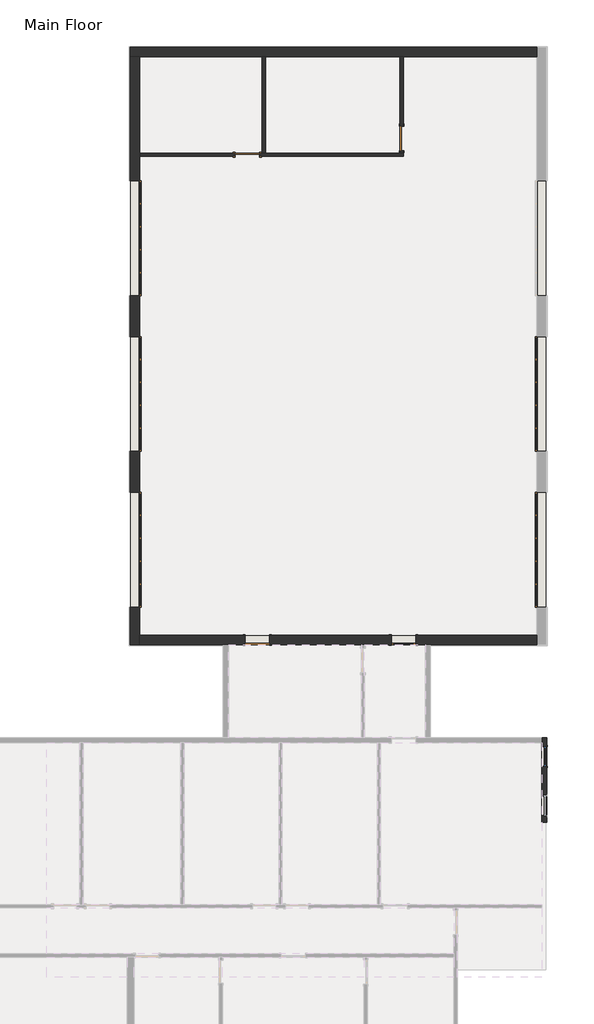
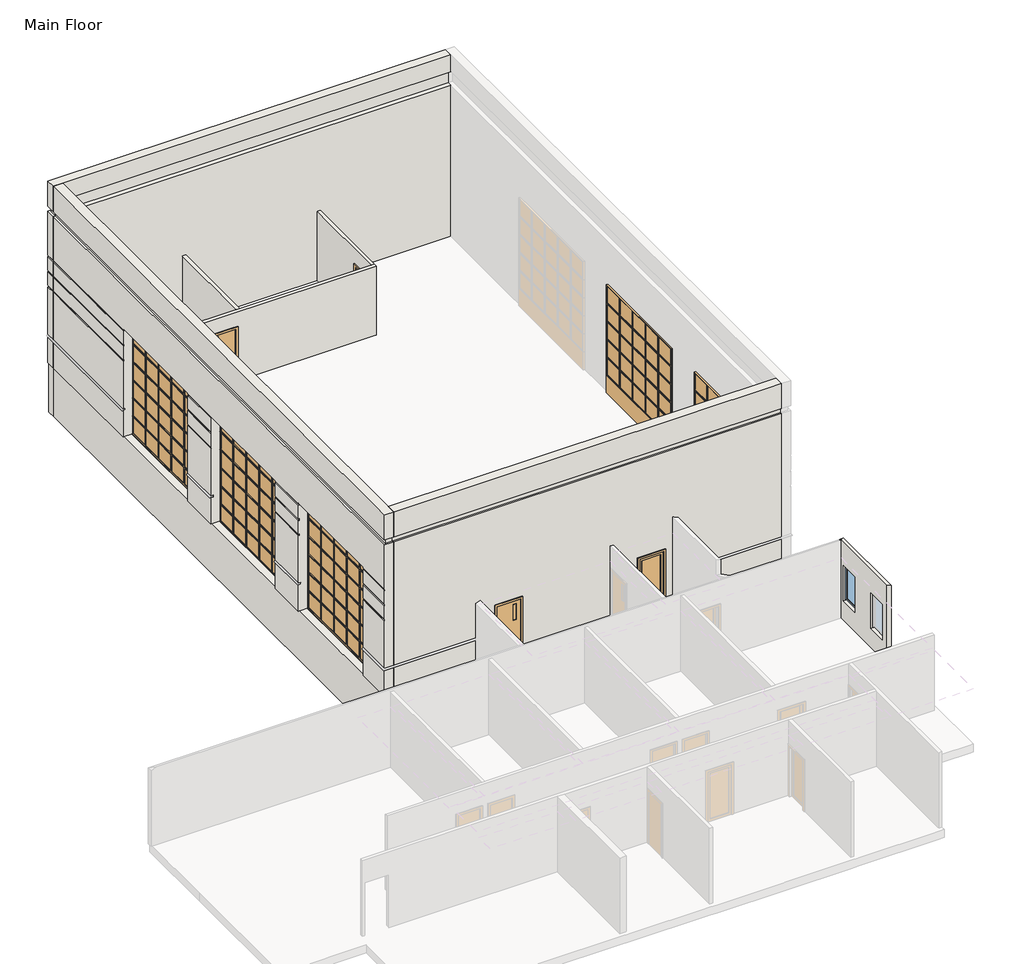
# One storey, part 2 of 3: 11 walls, 9 doors, 1 window.
"""IFC4 building model written with IfcOpenShell, lengths in millimetres."""

from ifc_helpers import new_model, si_unit, frame, origin, place, context, project, spatial, polyline, outline, extrude, faceted_brep, transform, mapped, element, save
from components import overhead_sectional_glass_14_x_14_271c9dc0, overhead_sectional_glass_14_x_14_50861e5d, door_d6ecde1c, door_2a3d4b99, door_1467a2ec, door_2118299b, window_3b8f106a

model = new_model("IFC4")

# Units and contexts
model_context = context("Model", 3, world=origin())
ifc_project = project(units=[si_unit("LENGTHUNIT", "METRE", prefix="MILLI")], contexts=[model_context])

# Site, building, storey
site = spatial("IfcSite", under=ifc_project)
building = spatial("IfcBuilding", under=site)
storey = spatial("IfcBuildingStorey", under=building, Name="Main Floor", Elevation=42672.0)

# Doors
placement = place(None, origin())
overhead_sectional_glass_14_x_14_shape = overhead_sectional_glass_14_x_14_271c9dc0(model_context)
element("IfcDoor", 1, ObjectType="Overhead-Sectional Glass : 14' x 14'", at=placement, inside=storey, context=model_context, shape_type="MappedRepresentation", body=[
    mapped(overhead_sectional_glass_14_x_14_shape, transform((465.1082664, 3387.6480156, 42672.0), x_axis=(0.0, -1.0, 0.0), y_axis=(1.0, 0.0, 0.0), z_axis=(0.0, 0.0, 1.0))),
])
overhead_sectional_glass_14_x_14_2_shape = overhead_sectional_glass_14_x_14_50861e5d(model_context)
element("IfcDoor", 2, ObjectType="Overhead-Sectional Glass : 14' x 14'", at=placement, inside=storey, context=model_context, shape_type="MappedRepresentation", body=[
    mapped(overhead_sectional_glass_14_x_14_2_shape, transform((465.1082664, 9178.8480156, 42672.0), x_axis=(0.0, 1.0, 0.0), y_axis=(-1.0, 0.0, 0.0), z_axis=(0.0, 0.0, 1.0))),
])
element("IfcDoor", 3, ObjectType="Overhead-Sectional Glass : 14' x 14'", at=placement, inside=storey, context=model_context, shape_type="MappedRepresentation", body=[
    mapped(overhead_sectional_glass_14_x_14_2_shape, transform((-14673.2917336, 14970.0480156, 42672.0), x_axis=(0.0, -1.0, 0.0), y_axis=(1.0, 0.0, 0.0), z_axis=(0.0, 0.0, 1.0))),
])
element("IfcDoor", 4, ObjectType="Overhead-Sectional Glass : 14' x 14'", at=placement, inside=storey, context=model_context, shape_type="MappedRepresentation", body=[
    mapped(overhead_sectional_glass_14_x_14_2_shape, transform((-14673.2917336, 9178.8480156, 42646.6), x_axis=(0.0, -1.0, 0.0), y_axis=(1.0, 0.0, 0.0), z_axis=(0.0, 0.0, 1.0))),
])
element("IfcDoor", 5, ObjectType="Overhead-Sectional Glass : 14' x 14'", at=placement, inside=storey, context=model_context, shape_type="MappedRepresentation", body=[
    mapped(overhead_sectional_glass_14_x_14_2_shape, transform((-14673.2917336, 3387.6480156, 42672.0), x_axis=(0.0, -1.0, 0.0), y_axis=(1.0, 0.0, 0.0), z_axis=(0.0, 0.0, 1.0))),
])
door_shape = door_d6ecde1c(model_context)
element("IfcDoor", 6, ObjectType="Single-Flush Vision : 36\" x 84\"", at=placement, inside=storey, context=model_context, shape_type="MappedRepresentation", body=[
    mapped(door_shape, transform((-10120.3417336, 34.8480156, 42672.0), x_axis=(-1.0, 0.0, 0.0), y_axis=(0.0, -1.0, 0.0), z_axis=(0.0, 0.0, 1.0))),
])
door_2_shape = door_2a3d4b99(model_context)
element("IfcDoor", 7, ObjectType="Single-Flush Vision : 36\" x 84\"", at=placement, inside=storey, context=model_context, shape_type="MappedRepresentation", body=[
    mapped(door_2_shape, transform((-10482.2917336, 18068.8480156, 42672.0), x_axis=(1.0, 0.0, 0.0), y_axis=(0.0, 1.0, 0.0), z_axis=(0.0, 0.0, 1.0))),
])
door_3_shape = door_1467a2ec(model_context)
element("IfcDoor", 8, ObjectType="Single-Flush Vision : 36\" x 84\"", at=placement, inside=storey, context=model_context, shape_type="MappedRepresentation", body=[
    mapped(door_3_shape, transform((-4741.8917336, 18678.4480156, 42672.0), x_axis=(0.0, -1.0, 0.0), y_axis=(1.0, 0.0, 0.0), z_axis=(0.0, 0.0, 1.0))),
])
door_4_shape = door_2118299b(model_context)
element("IfcDoor", 9, ObjectType="Single-Glass 1 : 36\" x 84\"", at=placement, inside=storey, context=model_context, shape_type="MappedRepresentation", body=[
    mapped(door_4_shape, transform((-4676.8042336, 34.8480156, 42672.0), x_axis=(1.0, 0.0, 0.0), y_axis=(0.0, 1.0, 0.0), z_axis=(0.0, 0.0, 1.0))),
])

# Walls
element("IfcWall", 10, ObjectType="Exterior - Brick & CMU - No Reveals", at=placement, inside=storey, context=model_context, shape_type="Brep", body=[
    faceted_brep([(-14497.0792336, 211.0605156, 49987.2), (288.8957664, 211.0605156, 49987.2), (288.8957664, 211.0605156, 49314.1), (-14497.0792336, 211.0605156, 49314.1), (288.8957664, 211.0605156, 42672.0), (-4219.6042336, 211.0605156, 42672.0), (-4219.6042336, 211.0605156, 44805.6), (-5134.0042336, 211.0605156, 44805.6), (-5134.0042336, 211.0605156, 42672.0), (-9663.1417336, 211.0605156, 42672.0), (-9663.1417336, 211.0605156, 44805.6), (-10577.5417336, 211.0605156, 44805.6), (-10577.5417336, 211.0605156, 42672.0), (-14497.0792336, 211.0605156, 42672.0), (-14497.0792336, 211.0605156, 48768.0), (288.8957664, 211.0605156, 48768.0), (288.8957664, -141.3644844, 49987.2), (-14497.0792336, -141.3644844, 49987.2), (-14497.0792336, -141.3644844, 48971.2), (288.8957664, -141.3644844, 48971.2), (-4219.6042336, -141.3644844, 42672.0), (-3856.0667336, -141.3644844, 42672.0), (-3668.7417336, -141.3644844, 42672.0), (288.8957664, -141.3644844, 42672.0), (288.8957664, -141.3644844, 43738.8), (-3668.7417336, -141.3644844, 43738.8), (-3668.7417336, -141.3644844, 43808.65), (288.8957664, -141.3644844, 43808.65), (288.8957664, -141.3644844, 48768.0), (-14497.0792336, -141.3644844, 48768.0), (-14497.0792336, -141.3644844, 43808.65), (-11379.2292336, -141.3644844, 43808.65), (-11379.2292336, -141.3644844, 43738.8), (-14497.0792336, -141.3644844, 43738.8), (-14497.0792336, -141.3644844, 42672.0), (-11379.2292336, -141.3644844, 42672.0), (-11191.9042336, -141.3644844, 42672.0), (-10577.5417336, -141.3644844, 42672.0), (-10577.5417336, -141.3644844, 44805.6), (-9663.1417336, -141.3644844, 44805.6), (-9663.1417336, -141.3644844, 42672.0), (-6243.6667336, -141.3644844, 42672.0), (-6119.8417336, -141.3644844, 42672.0), (-5134.0042336, -141.3644844, 42672.0), (-5134.0042336, -141.3644844, 44805.6), (-4219.6042336, -141.3644844, 44805.6), (-14497.0792336, -49.2894844, 42672.0), (-10577.5417336, -49.2894844, 42672.0), (288.8957664, -49.2894844, 42672.0), (-4219.6042336, -49.2894844, 42672.0), (-5134.0042336, -49.2894844, 42672.0), (-9663.1417336, -49.2894844, 42672.0), (-14497.0792336, 45.9605156, 49314.1), (-14497.0792336, 45.9605156, 48768.0), (-14497.0792336, -49.2894844, 43738.8), (-14497.0792336, -49.2894844, 43808.65), (-14497.0792336, -65.1644844, 48768.0), (-14497.0792336, -65.1644844, 48971.2), (288.8957664, -65.1644844, 48971.2), (288.8957664, -65.1644844, 48768.0), (288.8957664, -49.2894844, 43808.65), (288.8957664, -49.2894844, 43738.8), (288.8957664, 45.9605156, 48768.0), (288.8957664, 45.9605156, 49314.1), (-3668.7417336, -49.2894844, 43808.65), (-3668.7417336, -49.2894844, 43738.8), (-11379.2292336, -49.2894844, 43808.65), (-11379.2292336, -49.2894844, 43738.8)], [[[0, 1, 2, 3]], [[4, 5, 6, 7, 8, 9, 10, 11, 12, 13, 14, 15]], [[16, 17, 18, 19]], [[20, 21, 22, 23, 24, 25, 26, 27, 28, 29, 30, 31, 32, 33, 34, 35, 36, 37, 38, 39, 40, 41, 42, 43, 44, 45]], [[1, 0, 17, 16]], [[46, 13, 12, 47]], [[4, 48, 49, 5]], [[8, 50, 51, 9]], [[17, 0, 3, 52, 53, 14, 13, 46, 34, 33, 54, 55, 30, 29, 56, 57, 18]], [[1, 16, 19, 58, 59, 28, 27, 60, 61, 24, 23, 48, 4, 15, 62, 63, 2]], [[34, 46, 47, 37, 36, 35]], [[48, 23, 22, 21, 20, 49]], [[50, 43, 42, 41, 40, 51]], [[6, 5, 49, 20, 45]], [[7, 6, 45, 44]], [[8, 7, 44, 43, 50]], [[11, 38, 37, 47, 12]], [[38, 11, 10, 39]], [[39, 10, 9, 51, 40]], [[59, 56, 29, 28]], [[57, 58, 19, 18]], [[58, 57, 56, 59]], [[26, 64, 60, 27]], [[65, 25, 24, 61]], [[64, 26, 25, 65]], [[64, 65, 61, 60]], [[31, 66, 67, 32]], [[66, 31, 30, 55]], [[67, 54, 33, 32]], [[67, 66, 55, 54]], [[63, 52, 3, 2]], [[53, 62, 15, 14]], [[52, 63, 62, 53]]]),
])
element("IfcWall", 11, ObjectType="Exterior - Brick and CMU", at=placement, inside=storey, context=model_context, shape_type="Brep", body=[
    faceted_brep([(-14849.5042336, 21702.6355156, 42672.0), (-14497.0792336, 21702.6355156, 42672.0), (-9934.6042336, 21702.6355156, 42672.0), (-9810.7792336, 21702.6355156, 42672.0), (-4803.8042336, 21702.6355156, 42672.0), (-4679.9792336, 21702.6355156, 42672.0), (288.8957664, 21702.6355156, 42672.0), (288.8957664, 21702.6355156, 48768.0), (-14497.0792336, 21702.6355156, 48768.0), (-14662.1792336, 21702.6355156, 48768.0), (-14662.1792336, 21702.6355156, 49314.1), (-14497.0792336, 21702.6355156, 49314.1), (288.8957664, 21702.6355156, 49314.1), (288.8957664, 21702.6355156, 49987.2), (-14497.0792336, 21702.6355156, 49987.2), (-14849.5042336, 21702.6355156, 49987.2), (-14849.5042336, 21702.6355156, 48971.2), (-14773.3042336, 21702.6355156, 48971.2), (-14773.3042336, 21702.6355156, 48768.0), (-14849.5042336, 21702.6355156, 48768.0), (-14849.5042336, 21702.6355156, 47006.9333333), (-14824.1042336, 21702.6355156, 47006.9333333), (-14824.1042336, 21702.6355156, 46939.2), (-14849.5042336, 21702.6355156, 46939.2), (-14849.5042336, 21702.6355156, 46397.3333333), (-14824.1042336, 21702.6355156, 46397.3333333), (-14824.1042336, 21702.6355156, 46329.6), (-14849.5042336, 21702.6355156, 46329.6), (-14849.5042336, 21702.6355156, 45787.7333333), (-14824.1042336, 21702.6355156, 45787.7333333), (-14824.1042336, 21702.6355156, 45720.0), (-14849.5042336, 21702.6355156, 45720.0), (-14849.5042336, 21702.6355156, 43808.65), (-14757.4292336, 21702.6355156, 43808.65), (-14757.4292336, 21702.6355156, 43738.8), (-14849.5042336, 21702.6355156, 43738.8), (-14849.5042336, 22055.0605156, 49987.2), (288.8957664, 22055.0605156, 49987.2), (288.8957664, 22055.0605156, 48971.2), (-14849.5042336, 22055.0605156, 48971.2), (288.8957664, 22055.0605156, 42672.0), (-14849.5042336, 22055.0605156, 42672.0), (-14849.5042336, 22055.0605156, 43738.8), (288.8957664, 22055.0605156, 43738.8), (288.8957664, 22055.0605156, 45787.7333333), (-14849.5042336, 22055.0605156, 45787.7333333), (-14849.5042336, 22055.0605156, 46329.6), (288.8957664, 22055.0605156, 46329.6), (-14849.5042336, 22055.0605156, 45720.0), (288.8957664, 22055.0605156, 45720.0), (288.8957664, 22055.0605156, 43808.65), (-14849.5042336, 22055.0605156, 43808.65), (288.8957664, 22055.0605156, 46397.3333333), (-14849.5042336, 22055.0605156, 46397.3333333), (-14849.5042336, 22055.0605156, 46939.2), (288.8957664, 22055.0605156, 46939.2), (288.8957664, 22055.0605156, 47006.9333333), (-14849.5042336, 22055.0605156, 47006.9333333), (-14849.5042336, 22055.0605156, 48768.0), (288.8957664, 22055.0605156, 48768.0), (-14849.5042336, 21962.9855156, 42672.0), (288.8957664, 21962.9855156, 42672.0), (288.8957664, 21867.7355156, 49314.1), (288.8957664, 21867.7355156, 48768.0), (288.8957664, 21962.9855156, 43738.8), (288.8957664, 21962.9855156, 43808.65), (288.8957664, 22029.6605156, 45720.0), (288.8957664, 22029.6605156, 45787.7333333), (288.8957664, 22029.6605156, 46329.6), (288.8957664, 22029.6605156, 46397.3333333), (288.8957664, 22029.6605156, 46939.2), (288.8957664, 22029.6605156, 47006.9333333), (288.8957664, 21978.8605156, 48768.0), (288.8957664, 21978.8605156, 48971.2), (-14824.1042336, 22029.6605156, 45787.7333333), (-14824.1042336, 22029.6605156, 45720.0), (-14824.1042336, 22029.6605156, 46397.3333333), (-14824.1042336, 22029.6605156, 46329.6), (-14824.1042336, 22029.6605156, 47006.9333333), (-14824.1042336, 22029.6605156, 46939.2), (-14757.4292336, 21962.9855156, 43808.65), (-14757.4292336, 21962.9855156, 43738.8), (-14773.3042336, 21978.8605156, 48768.0), (-14773.3042336, 21978.8605156, 48971.2), (-14662.1792336, 21867.7355156, 49314.1), (-14662.1792336, 21867.7355156, 48768.0)], [[[0, 1, 2, 3, 4, 5, 6, 7, 8, 9, 10, 11, 12, 13, 14, 15, 16, 17, 18, 19, 20, 21, 22, 23, 24, 25, 26, 27, 28, 29, 30, 31, 32, 33, 34, 35]], [[36, 37, 38, 39]], [[40, 41, 42, 43]], [[44, 45, 46, 47]], [[48, 49, 50, 51]], [[52, 53, 54, 55]], [[56, 57, 58, 59]], [[15, 14, 13, 37, 36]], [[6, 5, 4, 3, 2, 1, 0, 60, 61]], [[37, 13, 12, 62, 63, 7, 6, 61, 40, 43, 64, 65, 50, 49, 66, 67, 44, 47, 68, 69, 52, 55, 70, 71, 56, 59, 72, 73, 38]], [[15, 36, 39, 16]], [[60, 0, 35, 42, 41]], [[45, 28, 27, 46]], [[31, 48, 51, 32]], [[53, 24, 23, 54]], [[57, 20, 19, 58]], [[41, 40, 61, 60]], [[67, 74, 29, 28, 45, 44]], [[30, 75, 66, 49, 48, 31]], [[74, 75, 30, 29]], [[75, 74, 67, 66]], [[69, 76, 25, 24, 53, 52]], [[26, 77, 68, 47, 46, 27]], [[76, 77, 26, 25]], [[77, 76, 69, 68]], [[71, 78, 21, 20, 57, 56]], [[22, 79, 70, 55, 54, 23]], [[78, 79, 22, 21]], [[79, 78, 71, 70]], [[65, 80, 33, 32, 51, 50]], [[34, 81, 64, 43, 42, 35]], [[80, 81, 34, 33]], [[81, 80, 65, 64]], [[18, 82, 72, 59, 58, 19]], [[83, 82, 18, 17]], [[73, 83, 17, 16, 39, 38]], [[82, 83, 73, 72]], [[84, 62, 12, 11, 10]], [[85, 9, 8, 7, 63]], [[85, 84, 10, 9]], [[84, 85, 63, 62]]]),
])
element("IfcWall", 12, ObjectType="Exterior - Brick and CMU", at=placement, inside=storey, context=model_context, shape_type="Brep", body=[
    faceted_brep([(-14497.0792336, 21702.6355156, 49987.2), (-14497.0792336, 211.0605156, 49987.2), (-14497.0792336, -141.3644844, 49987.2), (-14497.0792336, -141.3644844, 48971.2), (-14497.0792336, -65.1644844, 48971.2), (-14497.0792336, -65.1644844, 48768.0), (-14497.0792336, -141.3644844, 48768.0), (-14497.0792336, -141.3644844, 43808.65), (-14497.0792336, -49.2894844, 43808.65), (-14497.0792336, -49.2894844, 43738.8), (-14497.0792336, -141.3644844, 43738.8), (-14497.0792336, -141.3644844, 42672.0), (-14497.0792336, 211.0605156, 42672.0), (-14497.0792336, 1254.0480156, 42672.0), (-14497.0792336, 1254.0480156, 47040.8), (-14497.0792336, 5521.2480156, 47040.8), (-14497.0792336, 5521.2480156, 42672.0), (-14497.0792336, 7045.2480156, 42672.0), (-14497.0792336, 7045.2480156, 47015.4), (-14497.0792336, 11312.4480156, 47015.4), (-14497.0792336, 11312.4480156, 42672.0), (-14497.0792336, 12836.4480156, 42672.0), (-14497.0792336, 12836.4480156, 47040.8), (-14497.0792336, 17103.6480156, 47040.8), (-14497.0792336, 17103.6480156, 42672.0), (-14497.0792336, 18006.9355156, 42672.0), (-14497.0792336, 18130.7605156, 42672.0), (-14497.0792336, 21702.6355156, 42672.0), (-14497.0792336, 21702.6355156, 48768.0), (-14497.0792336, 211.0605156, 48768.0), (-14497.0792336, 45.9605156, 48768.0), (-14497.0792336, 45.9605156, 49314.1), (-14497.0792336, 211.0605156, 49314.1), (-14497.0792336, 21702.6355156, 49314.1), (-14849.5042336, -141.3644844, 49987.2), (-14849.5042336, 21702.6355156, 49987.2), (-14849.5042336, 21702.6355156, 48971.2), (-14849.5042336, -141.3644844, 48971.2), (-14849.5042336, 21702.6355156, 42672.0), (-14849.5042336, 17103.6480156, 42672.0), (-14849.5042336, 17103.6480156, 43738.8), (-14849.5042336, 21702.6355156, 43738.8), (-14849.5042336, 17103.6480156, 47040.8), (-14849.5042336, 12836.4480156, 47040.8), (-14849.5042336, 12836.4480156, 47006.9333333), (-14849.5042336, 11312.4480156, 47006.9333333), (-14849.5042336, 11312.4480156, 47015.4), (-14849.5042336, 7045.2480156, 47015.4), (-14849.5042336, 7045.2480156, 47006.9333333), (-14849.5042336, 5521.2480156, 47006.9333333), (-14849.5042336, 5521.2480156, 47040.8), (-14849.5042336, 1254.0480156, 47040.8), (-14849.5042336, 1254.0480156, 47006.9333333), (-14849.5042336, -141.3644844, 47006.9333333), (-14849.5042336, -141.3644844, 48768.0), (-14849.5042336, 21702.6355156, 48768.0), (-14849.5042336, 21702.6355156, 47006.9333333), (-14849.5042336, 17103.6480156, 47006.9333333), (-14849.5042336, 12836.4480156, 42672.0), (-14849.5042336, 11312.4480156, 42672.0), (-14849.5042336, 11312.4480156, 43738.8), (-14849.5042336, 12836.4480156, 43738.8), (-14849.5042336, 1254.0480156, 42672.0), (-14849.5042336, -141.3644844, 42672.0), (-14849.5042336, -141.3644844, 43738.8), (-14849.5042336, 1254.0480156, 43738.8), (-14849.5042336, 7045.2480156, 42672.0), (-14849.5042336, 5521.2480156, 42672.0), (-14849.5042336, 5521.2480156, 43738.8), (-14849.5042336, 7045.2480156, 43738.8), (-14849.5042336, 21702.6355156, 45787.7333333), (-14849.5042336, 17103.6480156, 45787.7333333), (-14849.5042336, 17103.6480156, 46329.6), (-14849.5042336, 21702.6355156, 46329.6), (-14849.5042336, 17103.6480156, 45720.0), (-14849.5042336, 21702.6355156, 45720.0), (-14849.5042336, 21702.6355156, 43808.65), (-14849.5042336, 17103.6480156, 43808.65), (-14849.5042336, 12836.4480156, 45787.7333333), (-14849.5042336, 11312.4480156, 45787.7333333), (-14849.5042336, 11312.4480156, 46329.6), (-14849.5042336, 12836.4480156, 46329.6), (-14849.5042336, 11312.4480156, 45720.0), (-14849.5042336, 12836.4480156, 45720.0), (-14849.5042336, 12836.4480156, 43808.65), (-14849.5042336, 11312.4480156, 43808.65), (-14849.5042336, 7045.2480156, 45787.7333333), (-14849.5042336, 5521.2480156, 45787.7333333), (-14849.5042336, 5521.2480156, 46329.6), (-14849.5042336, 7045.2480156, 46329.6), (-14849.5042336, 5521.2480156, 45720.0), (-14849.5042336, 7045.2480156, 45720.0), (-14849.5042336, 7045.2480156, 43808.65), (-14849.5042336, 5521.2480156, 43808.65), (-14849.5042336, 1254.0480156, 45787.7333333), (-14849.5042336, -141.3644844, 45787.7333333), (-14849.5042336, -141.3644844, 46329.6), (-14849.5042336, 1254.0480156, 46329.6), (-14849.5042336, -141.3644844, 45720.0), (-14849.5042336, 1254.0480156, 45720.0), (-14849.5042336, 1254.0480156, 43808.65), (-14849.5042336, -141.3644844, 43808.65), (-14849.5042336, 21702.6355156, 46397.3333333), (-14849.5042336, 17103.6480156, 46397.3333333), (-14849.5042336, 17103.6480156, 46939.2), (-14849.5042336, 21702.6355156, 46939.2), (-14849.5042336, 12836.4480156, 46397.3333333), (-14849.5042336, 11312.4480156, 46397.3333333), (-14849.5042336, 11312.4480156, 46939.2), (-14849.5042336, 12836.4480156, 46939.2), (-14849.5042336, 7045.2480156, 46397.3333333), (-14849.5042336, 5521.2480156, 46397.3333333), (-14849.5042336, 5521.2480156, 46939.2), (-14849.5042336, 7045.2480156, 46939.2), (-14849.5042336, 1254.0480156, 46397.3333333), (-14849.5042336, -141.3644844, 46397.3333333), (-14849.5042336, -141.3644844, 46939.2), (-14849.5042336, 1254.0480156, 46939.2), (-14757.4292336, -141.3644844, 42672.0), (-14757.4292336, 1254.0480156, 42672.0), (-14757.4292336, 21702.6355156, 42672.0), (-14757.4292336, 17103.6480156, 42672.0), (-14757.4292336, 12836.4480156, 42672.0), (-14757.4292336, 11312.4480156, 42672.0), (-14757.4292336, 7045.2480156, 42672.0), (-14757.4292336, 5521.2480156, 42672.0), (-14824.1042336, -141.3644844, 45787.7333333), (-14824.1042336, -141.3644844, 45720.0), (-14824.1042336, -141.3644844, 47006.9333333), (-14824.1042336, -141.3644844, 46939.2), (-14824.1042336, -141.3644844, 46397.3333333), (-14824.1042336, -141.3644844, 46329.6), (-14662.1792336, 21702.6355156, 49314.1), (-14662.1792336, 21702.6355156, 48768.0), (-14757.4292336, 21702.6355156, 43738.8), (-14757.4292336, 21702.6355156, 43808.65), (-14824.1042336, 21702.6355156, 45720.0), (-14824.1042336, 21702.6355156, 45787.7333333), (-14824.1042336, 21702.6355156, 46329.6), (-14824.1042336, 21702.6355156, 46397.3333333), (-14824.1042336, 21702.6355156, 46939.2), (-14824.1042336, 21702.6355156, 47006.9333333), (-14773.3042336, 21702.6355156, 48768.0), (-14773.3042336, 21702.6355156, 48971.2), (-14757.4292336, 12836.4480156, 43738.8), (-14757.4292336, 12836.4480156, 43808.65), (-14824.1042336, 12836.4480156, 45720.0), (-14824.1042336, 12836.4480156, 45787.7333333), (-14824.1042336, 12836.4480156, 46329.6), (-14824.1042336, 12836.4480156, 46397.3333333), (-14824.1042336, 12836.4480156, 46939.2), (-14824.1042336, 12836.4480156, 47006.9333333), (-14824.1042336, 17103.6480156, 47006.9333333), (-14824.1042336, 17103.6480156, 46939.2), (-14824.1042336, 17103.6480156, 46397.3333333), (-14824.1042336, 17103.6480156, 46329.6), (-14824.1042336, 17103.6480156, 45787.7333333), (-14824.1042336, 17103.6480156, 45720.0), (-14757.4292336, 17103.6480156, 43808.65), (-14757.4292336, 17103.6480156, 43738.8), (-14757.4292336, 7045.2480156, 43738.8), (-14757.4292336, 7045.2480156, 43808.65), (-14824.1042336, 7045.2480156, 45720.0), (-14824.1042336, 7045.2480156, 45787.7333333), (-14824.1042336, 7045.2480156, 46329.6), (-14824.1042336, 7045.2480156, 46397.3333333), (-14824.1042336, 7045.2480156, 46939.2), (-14824.1042336, 7045.2480156, 47006.9333333), (-14824.1042336, 11312.4480156, 47006.9333333), (-14824.1042336, 11312.4480156, 46939.2), (-14824.1042336, 11312.4480156, 46397.3333333), (-14824.1042336, 11312.4480156, 46329.6), (-14824.1042336, 11312.4480156, 45787.7333333), (-14824.1042336, 11312.4480156, 45720.0), (-14757.4292336, 11312.4480156, 43808.65), (-14757.4292336, 11312.4480156, 43738.8), (-14757.4292336, 1254.0480156, 43738.8), (-14757.4292336, 1254.0480156, 43808.65), (-14824.1042336, 1254.0480156, 45720.0), (-14824.1042336, 1254.0480156, 45787.7333333), (-14824.1042336, 1254.0480156, 46329.6), (-14824.1042336, 1254.0480156, 46397.3333333), (-14824.1042336, 1254.0480156, 46939.2), (-14824.1042336, 1254.0480156, 47006.9333333), (-14824.1042336, 5521.2480156, 47006.9333333), (-14824.1042336, 5521.2480156, 46939.2), (-14824.1042336, 5521.2480156, 46397.3333333), (-14824.1042336, 5521.2480156, 46329.6), (-14824.1042336, 5521.2480156, 45787.7333333), (-14824.1042336, 5521.2480156, 45720.0), (-14757.4292336, 5521.2480156, 43808.65), (-14757.4292336, 5521.2480156, 43738.8), (-14757.4292336, -49.2894844, 43808.65), (-14757.4292336, -49.2894844, 43738.8), (-14773.3042336, -65.1644844, 48768.0), (-14773.3042336, -65.1644844, 48971.2), (-14662.1792336, 45.9605156, 49314.1), (-14662.1792336, 45.9605156, 48768.0)], [[[0, 1, 2, 3, 4, 5, 6, 7, 8, 9, 10, 11, 12, 13, 14, 15, 16, 17, 18, 19, 20, 21, 22, 23, 24, 25, 26, 27, 28, 29, 30, 31, 32, 33]], [[34, 35, 36, 37]], [[38, 39, 40, 41]], [[42, 43, 44, 45, 46, 47, 48, 49, 50, 51, 52, 53, 54, 55, 56, 57]], [[58, 59, 60, 61]], [[62, 63, 64, 65]], [[66, 67, 68, 69]], [[70, 71, 72, 73]], [[74, 75, 76, 77]], [[78, 79, 80, 81]], [[82, 83, 84, 85]], [[86, 87, 88, 89]], [[90, 91, 92, 93]], [[94, 95, 96, 97]], [[98, 99, 100, 101]], [[102, 103, 104, 105]], [[106, 107, 108, 109]], [[110, 111, 112, 113]], [[114, 115, 116, 117]], [[2, 1, 0, 35, 34]], [[11, 118, 119, 13, 12]], [[120, 27, 26, 25, 24, 121]], [[122, 21, 20, 123]], [[124, 17, 16, 125]], [[2, 34, 37, 3]], [[118, 11, 10, 64, 63]], [[126, 127, 98, 101, 7, 6, 54, 53, 128, 129, 116, 115, 130, 131, 96, 95]], [[118, 63, 62, 119]], [[38, 120, 121, 39]], [[58, 122, 123, 59]], [[66, 124, 125, 67]], [[35, 0, 33, 132, 133, 28, 27, 120, 38, 41, 134, 135, 76, 75, 136, 137, 70, 73, 138, 139, 102, 105, 140, 141, 56, 55, 142, 143, 36]], [[43, 22, 21, 122, 58, 61, 144, 145, 84, 83, 146, 147, 78, 81, 148, 149, 106, 109, 150, 151, 44]], [[22, 43, 42, 23]], [[23, 42, 57, 152, 153, 104, 103, 154, 155, 72, 71, 156, 157, 74, 77, 158, 159, 40, 39, 121, 24]], [[47, 18, 17, 124, 66, 69, 160, 161, 92, 91, 162, 163, 86, 89, 164, 165, 110, 113, 166, 167, 48]], [[18, 47, 46, 19]], [[19, 46, 45, 168, 169, 108, 107, 170, 171, 80, 79, 172, 173, 82, 85, 174, 175, 60, 59, 123, 20]], [[51, 14, 13, 119, 62, 65, 176, 177, 100, 99, 178, 179, 94, 97, 180, 181, 114, 117, 182, 183, 52]], [[14, 51, 50, 15]], [[15, 50, 49, 184, 185, 112, 111, 186, 187, 88, 87, 188, 189, 90, 93, 190, 191, 68, 67, 125, 16]], [[179, 126, 95, 94]], [[127, 178, 99, 98]], [[126, 179, 178, 127]], [[163, 188, 87, 86]], [[189, 162, 91, 90]], [[188, 163, 162, 189]], [[147, 172, 79, 78]], [[173, 146, 83, 82]], [[172, 147, 146, 173]], [[137, 156, 71, 70]], [[157, 136, 75, 74]], [[136, 157, 156, 137]], [[181, 130, 115, 114]], [[131, 180, 97, 96]], [[130, 181, 180, 131]], [[165, 186, 111, 110]], [[187, 164, 89, 88]], [[186, 165, 164, 187]], [[149, 170, 107, 106]], [[171, 148, 81, 80]], [[170, 149, 148, 171]], [[139, 154, 103, 102]], [[155, 138, 73, 72]], [[138, 155, 154, 139]], [[183, 128, 53, 52]], [[129, 182, 117, 116]], [[128, 183, 182, 129]], [[167, 184, 49, 48]], [[185, 166, 113, 112]], [[184, 167, 166, 185]], [[151, 168, 45, 44]], [[169, 150, 109, 108]], [[168, 151, 150, 169]], [[141, 152, 57, 56]], [[153, 140, 105, 104]], [[140, 153, 152, 141]], [[177, 192, 8, 7, 101, 100]], [[193, 176, 65, 64, 10, 9]], [[192, 193, 9, 8]], [[192, 177, 176, 193]], [[161, 190, 93, 92]], [[191, 160, 69, 68]], [[190, 161, 160, 191]], [[145, 174, 85, 84]], [[175, 144, 61, 60]], [[174, 145, 144, 175]], [[135, 158, 77, 76]], [[159, 134, 41, 40]], [[134, 159, 158, 135]], [[5, 194, 142, 55, 54, 6]], [[195, 194, 5, 4]], [[143, 195, 4, 3, 37, 36]], [[194, 195, 143, 142]], [[31, 196, 132, 33, 32]], [[133, 197, 30, 29, 28]], [[196, 197, 133, 132]], [[197, 196, 31, 30]]]),
])
element("IfcWall", 13, ObjectType="Exterior - Siding", at=placement, inside=storey, context=model_context, shape_type="Brep", body=[
    faceted_brep([(461.9332664, -3591.0019844, 42672.0), (461.9332664, -3778.3269844, 42672.0), (461.9332664, -6746.9519844, 42672.0), (461.9332664, -6746.9519844, 45813.6625), (461.9332664, -3778.3269844, 45813.6625), (461.9332664, -3591.0019844, 45720.0), (461.9332664, -4675.2644844, 44869.1), (461.9332664, -4675.2644844, 43453.05), (461.9332664, -3913.2644844, 43453.05), (461.9332664, -3913.2644844, 44869.1), (461.9332664, -6504.0644844, 44869.1), (461.9332664, -6504.0644844, 43453.05), (461.9332664, -5742.0644844, 43453.05), (461.9332664, -5742.0644844, 44869.1), (649.2582664, -3591.0019844, 42672.0), (649.2582664, -3591.0019844, 45720.0), (649.2582664, -6746.9519844, 45720.0), (649.2582664, -6746.9519844, 42672.0), (649.2582664, -4675.2644844, 44869.1), (649.2582664, -3913.2644844, 44869.1), (649.2582664, -3913.2644844, 43453.05), (649.2582664, -4675.2644844, 43453.05), (649.2582664, -6504.0644844, 44869.1), (649.2582664, -5742.0644844, 44869.1), (649.2582664, -5742.0644844, 43453.05), (649.2582664, -6504.0644844, 43453.05)], [[[0, 1, 2, 3, 4, 5], [6, 7, 8, 9], [10, 11, 12, 13]], [[14, 15, 16, 17], [18, 19, 20, 21], [22, 23, 24, 25]], [[2, 1, 0, 14, 17]], [[3, 2, 17, 16]], [[0, 5, 15, 14]], [[5, 4, 15]], [[4, 3, 16, 15]], [[7, 6, 18, 21]], [[8, 7, 21, 20]], [[9, 8, 20, 19]], [[6, 9, 19, 18]], [[11, 10, 22, 25]], [[12, 11, 25, 24]], [[13, 12, 24, 23]], [[10, 13, 23, 22]]]),
])
element("IfcWall", 14, ObjectType="Foundation - 12\" Concrete", at=placement, inside=storey, context=model_context, shape_type="Brep", body=[
    faceted_brep([(-14520.8917336, -117.5519844, 40690.8), (-14520.8917336, 187.2480156, 40690.8), (-14520.8917336, 21726.4480156, 40690.8), (-14520.8917336, 21726.4480156, 42672.0), (-14520.8917336, 187.2480156, 42672.0), (-14520.8917336, -117.5519844, 42672.0), (-14825.6917336, -117.5519844, 40690.8), (-14825.6917336, -117.5519844, 42672.0), (-14825.6917336, 21726.4480156, 42672.0), (-14825.6917336, 21726.4480156, 40690.8)], [[[0, 1, 2, 3, 4, 5]], [[6, 7, 8, 9]], [[2, 1, 0, 6, 9]], [[5, 4, 3, 8, 7]], [[0, 5, 7, 6]], [[3, 2, 9, 8]]]),
])
element("IfcWall", 15, ObjectType="Foundation - 12\" Concrete", at=placement, inside=storey, context=model_context, shape_type="Brep", body=[
    faceted_brep([(312.7082664, 22031.2480156, 40690.8), (312.7082664, 21726.4480156, 40690.8), (312.7082664, 187.2480156, 40690.8), (312.7082664, -117.5519844, 40690.8), (312.7082664, -117.5519844, 42672.0), (312.7082664, 187.2480156, 42672.0), (312.7082664, 21726.4480156, 42672.0), (312.7082664, 22031.2480156, 42672.0), (617.5082664, 22031.2480156, 40690.8), (617.5082664, 22031.2480156, 42672.0), (617.5082664, -117.5519844, 42672.0), (617.5082664, -117.5519844, 40690.8)], [[[0, 1, 2, 3, 4, 5, 6, 7]], [[8, 9, 10, 11]], [[3, 2, 1, 0, 8, 11]], [[7, 6, 5, 4, 10, 9]], [[4, 3, 11, 10]], [[0, 7, 9, 8]]]),
])
element("IfcWall", 16, ObjectType="Foundation - 12\" Concrete", at=placement, inside=storey, context=model_context, shape_type="SweptSolid", body=[
    extrude(outline(polyline([(-14520.8917336, 187.2480156), (312.7082664, 187.2480156), (312.7082664, -117.5519844), (-14520.8917336, -117.5519844), (-14520.8917336, 187.2480156)])), frame((0.0, 0.0, 40690.8), z_axis=(0.0, 0.0, 1.0), x_axis=(1.0, 0.0, 0.0)), (0.0, 0.0, 1.0), 1981.2),
])
element("IfcWall", 17, ObjectType="Foundation - 12\" Concrete", at=placement, inside=storey, context=model_context, shape_type="Brep", body=[
    faceted_brep([(-14825.6917336, 21726.4480156, 40690.8), (-14520.8917336, 21726.4480156, 40690.8), (312.7082664, 21726.4480156, 40690.8), (312.7082664, 21726.4480156, 42672.0), (-14520.8917336, 21726.4480156, 42672.0), (-14825.6917336, 21726.4480156, 42672.0), (-14825.6917336, 22031.2480156, 40690.8), (-14825.6917336, 22031.2480156, 42672.0), (312.7082664, 22031.2480156, 42672.0), (312.7082664, 22031.2480156, 40690.8)], [[[0, 1, 2, 3, 4, 5]], [[6, 7, 8, 9]], [[2, 1, 0, 6, 9]], [[5, 4, 3, 8, 7]], [[0, 5, 7, 6]], [[3, 2, 9, 8]]]),
])
element("IfcWall", 18, ObjectType="Interior - 4 7/8\" Partition (1-hr)", at=placement, inside=storey, context=model_context, shape_type="Brep", body=[
    faceted_brep([(-10025.0917336, 18006.9355156, 44805.6), (-10025.0917336, 18006.9355156, 42672.0), (-4679.9792336, 18006.9355156, 42672.0), (-4679.9792336, 18006.9355156, 45462.825), (-14497.0792336, 18006.9355156, 45462.825), (-14497.0792336, 18006.9355156, 42672.0), (-10939.4917336, 18006.9355156, 42672.0), (-10939.4917336, 18006.9355156, 44805.6), (-4679.9792336, 18130.7605156, 42672.0), (-4803.8042336, 18130.7605156, 42672.0), (-9810.7792336, 18130.7605156, 42672.0), (-9934.6042336, 18130.7605156, 42672.0), (-10025.0917336, 18130.7605156, 42672.0), (-10025.0917336, 18130.7605156, 44805.6), (-10939.4917336, 18130.7605156, 44805.6), (-10939.4917336, 18130.7605156, 42672.0), (-14497.0792336, 18130.7605156, 42672.0), (-14497.0792336, 18130.7605156, 45462.825), (-9934.6042336, 18130.7605156, 45462.825), (-9810.7792336, 18130.7605156, 45462.825), (-4803.8042336, 18130.7605156, 45462.825), (-4679.9792336, 18130.7605156, 45462.825)], [[[0, 1, 2, 3, 4, 5, 6, 7]], [[8, 9, 10, 11, 12, 13, 14, 15, 16, 17, 18, 19, 20, 21]], [[2, 1, 12, 11, 10, 9, 8]], [[6, 5, 16, 15]], [[3, 2, 8, 21]], [[5, 4, 17, 16]], [[4, 3, 21, 20, 19, 18, 17]], [[13, 12, 1, 0]], [[14, 13, 0, 7]], [[15, 14, 7, 6]]]),
])
element("IfcWall", 19, ObjectType="Interior - 4 7/8\" Partition (1-hr)", at=placement, inside=storey, context=model_context, shape_type="SweptSolid", body=[
    extrude(outline(polyline([(-9810.7792336, 21702.6355156), (-9810.7792336, 18130.7605156), (-9934.6042336, 18130.7605156), (-9934.6042336, 21702.6355156), (-9810.7792336, 21702.6355156)])), frame((0.0, 0.0, 42672.0), z_axis=(0.0, 0.0, 1.0), x_axis=(1.0, 0.0, 0.0)), (0.0, 0.0, 1.0), 2790.825),
])
element("IfcWall", 20, ObjectType="Interior - 4 7/8\" Partition (1-hr)", at=placement, inside=storey, context=model_context, shape_type="SweptSolid", body=[
    extrude(outline(polyline([(18221.2480156, 44805.6), (18221.2480156, 42672.0), (18130.7605156, 42672.0), (18130.7605156, 45462.825), (21702.6355156, 45462.825), (21702.6355156, 42672.0), (19135.6480156, 42672.0), (19135.6480156, 44805.6), (18221.2480156, 44805.6)])), frame((-4803.8042336, 0.0, 0.0), z_axis=(1.0, 0.0, 0.0), x_axis=(0.0, 1.0, 0.0)), (0.0, 0.0, 1.0), 123.825),
])

# Window
window_shape = window_3b8f106a(model_context)
element("IfcWindow", 21, ObjectType="Window 2 : 30\" W", at=placement, inside=storey, context=model_context, shape_type="MappedRepresentation", body=[
    mapped(window_shape, transform((555.5957664, -4294.2644844, 42672.0), x_axis=(0.0, -1.0, 0.0), y_axis=(1.0, 0.0, 0.0), z_axis=(0.0, 0.0, 1.0))),
])

save(model, "model.ifc")
